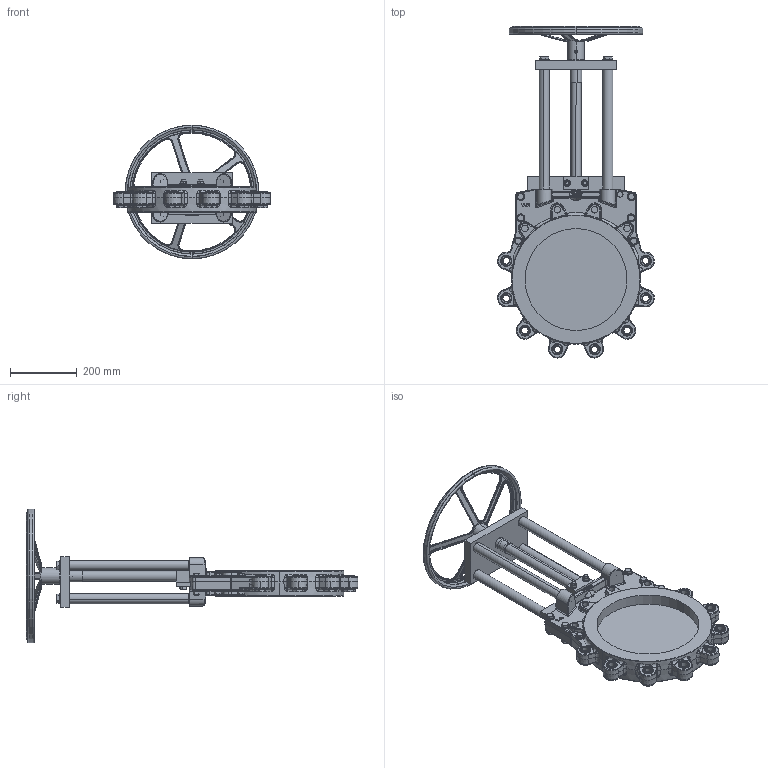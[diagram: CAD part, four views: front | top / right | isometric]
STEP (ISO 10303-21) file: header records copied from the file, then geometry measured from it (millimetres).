
FILE_DESCRIPTION (( 'STEP AP214' ), '1' );
FILE_NAME ('VLA DN 0300.STEP', '2022-09-20T06:58:11', ( '' ), ( '' ), 'SwSTEP 2.0', 'SolidWorks 2021', '' );
FILE_SCHEMA (( 'AUTOMOTIVE_DESIGN' ));
Length unit declared in the file: millimetre
Products named in the file (1): VLA DN 0300
Bounding box: 469.09 x 992.03 x 400 mm (x, y, z)
Volume: 9762258.2 mm3; surface area: 1221582.5 mm2
Topology: 1 solids, 36 shells, 2558 faces, 6093 edges, 3545 vertices
Faces by surface type: plane 731, cylinder 627, bspline 483, cone 468, torus 247, sphere 2
Entity records: 124608 total; most frequent: CARTESIAN_POINT 41505, ORIENTED_EDGE 11850, DIRECTION 11056, EDGE_CURVE 5925, AXIS2_PLACEMENT_3D 4551, VERTEX_POINT 3545, EDGE_LOOP 2754, UNCERTAINTY_MEASURE_WITH_UNIT 2561
